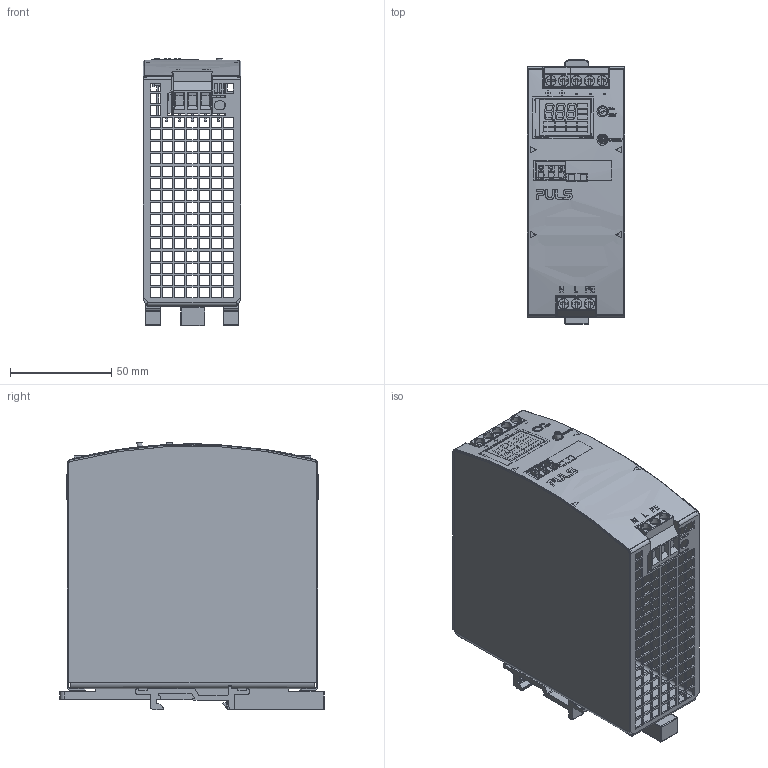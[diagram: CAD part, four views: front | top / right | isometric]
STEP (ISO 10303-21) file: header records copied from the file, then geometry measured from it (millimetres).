
FILE_DESCRIPTION (( 'STEP AP214' ), '1' );
FILE_NAME ('457.18.STEP', '2024-11-25T06:43:46', ( '' ), ( '' ), 'SwSTEP 2.0', 'SolidWorks 2024', '' );
FILE_SCHEMA (( 'AUTOMOTIVE_DESIGN' ));
Length unit declared in the file: millimetre
Products named in the file (1): 457.18
Bounding box: 48 x 130.5 x 132.42 mm (x, y, z)
Volume: 85457.4 mm3; surface area: 122872.1 mm2
Topology: 30 solids, 33 shells, 3886 faces, 10972 edges, 7277 vertices
Faces by surface type: plane 3249, cylinder 432, bspline 95, cone 84, sphere 16, torus 10
Full cylindrical faces by diameter (mm): 0.3 x9, 0.5 x3, 1.5 x1, 2.45 x6, 3 x8, 3.05 x1, 3.1 x4, 3.44 x1, 3.8 x1, 4.5 x1, 4.7 x1, 4.75 x1, 5.05 x8, 5.2 x8, 5.5 x2, 6.3 x2
Entity records: 185931 total; most frequent: CARTESIAN_POINT 43017, ORIENTED_EDGE 21550, DIRECTION 18506, EDGE_CURVE 10775, LINE 9168, VECTOR 9168, VERTEX_POINT 7211, EDGE_LOOP 4738
